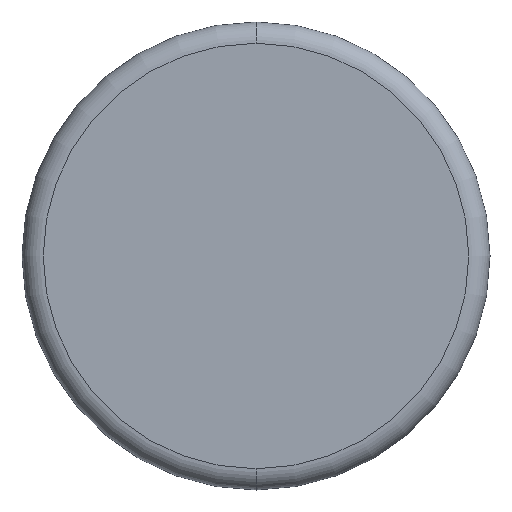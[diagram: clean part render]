
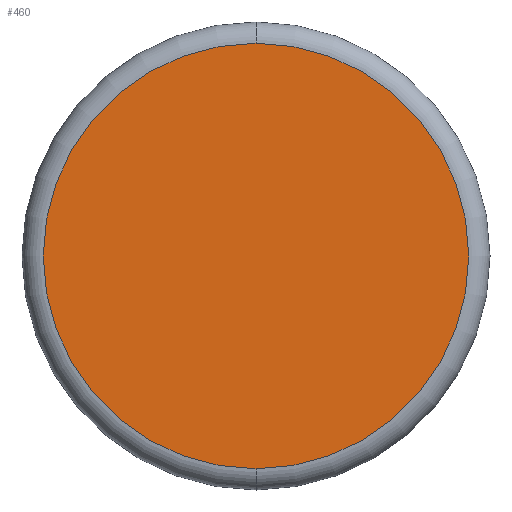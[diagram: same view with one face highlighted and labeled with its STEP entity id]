
A CAD part, left-side view. The second image highlights one B-rep face of the part: STEP entity #460.
In plain terms, the highlighted planar face has unit normal (-1, 0, 0).
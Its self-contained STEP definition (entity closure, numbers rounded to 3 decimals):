
#49=CARTESIAN_POINT('',(-29.1,0.,-51.));
#50=VERTEX_POINT('',#49);
#60=CARTESIAN_POINT('',(-29.1,51.,0.0));
#61=VERTEX_POINT('',#60);
#62=CARTESIAN_POINT('',(-29.1,0.,0.0));
#63=DIRECTION('',(1.0,0.0,0.0));
#64=DIRECTION('',(0.0,1.0,0.0));
#65=AXIS2_PLACEMENT_3D('',#62,#63,#64);
#66=CIRCLE('',#65,51.);
#67=EDGE_CURVE('',#50,#61,#66,.T.);
#69=CARTESIAN_POINT('',(-29.1,0.,51.));
#70=VERTEX_POINT('',#69);
#71=CARTESIAN_POINT('',(-29.1,0.,0.0));
#72=DIRECTION('',(1.0,0.0,0.0));
#73=DIRECTION('',(0.0,1.0,0.0));
#74=AXIS2_PLACEMENT_3D('',#71,#72,#73);
#75=CIRCLE('',#74,51.);
#76=EDGE_CURVE('',#61,#70,#75,.T.);
#444=CARTESIAN_POINT('',(-29.1,25.5,0.0));
#445=DIRECTION('',(-1.0,0.0,0.0));
#446=DIRECTION('',(0.0,0.0,1.0));
#447=AXIS2_PLACEMENT_3D('',#444,#445,#446);
#448=PLANE('',#447);
#449=ORIENTED_EDGE('',*,*,#76,.F.);
#450=ORIENTED_EDGE('',*,*,#67,.F.);
#451=CARTESIAN_POINT('',(-29.1,0.,0.0));
#452=DIRECTION('',(1.0,0.0,0.0));
#453=DIRECTION('',(0.0,1.0,0.0));
#454=AXIS2_PLACEMENT_3D('',#451,#452,#453);
#455=CIRCLE('',#454,51.);
#456=EDGE_CURVE('',#70,#50,#455,.T.);
#457=ORIENTED_EDGE('',*,*,#456,.F.);
#458=EDGE_LOOP('',(#449,#450,#457));
#459=FACE_OUTER_BOUND('',#458,.T.);
#460=ADVANCED_FACE('',(#459),#448,.T.);
